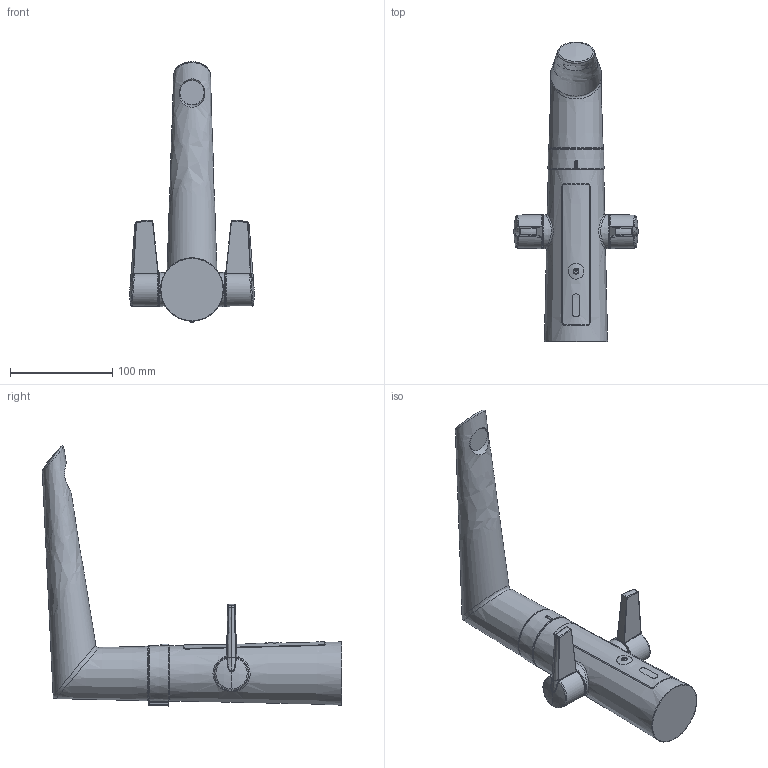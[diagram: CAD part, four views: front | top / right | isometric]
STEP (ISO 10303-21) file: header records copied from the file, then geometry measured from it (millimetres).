
FILE_DESCRIPTION (( 'STEP AP203' ), '1' );
FILE_NAME ('2720F.STEP', '2017-03-09T05:48:09', ( '' ), ( '' ), 'SwSTEP 2.0', 'SolidWorks 2016', '' );
FILE_SCHEMA (( 'CONFIG_CONTROL_DESIGN' ));
Length unit declared in the file: millimetre
Products named in the file (1): 2720F
Bounding box: 121.98 x 293.44 x 255.32 mm (x, y, z)
Volume: 994720.5 mm3; surface area: 90963.4 mm2
Topology: 1 solids, 1 shells, 215 faces, 503 edges, 304 vertices
Faces by surface type: bspline 146, torus 20, cone 19, plane 18, cylinder 11, sphere 1
Full cylindrical faces by diameter (mm): 23.8 x1, 32.535 x4, 33.5 x2
Entity records: 30202 total; most frequent: CARTESIAN_POINT 26670, ORIENTED_EDGE 900, EDGE_CURVE 450, DIRECTION 354, B_SPLINE_CURVE_WITH_KNOTS 314, VERTEX_POINT 287, EDGE_LOOP 265, FACE_OUTER_BOUND 238
